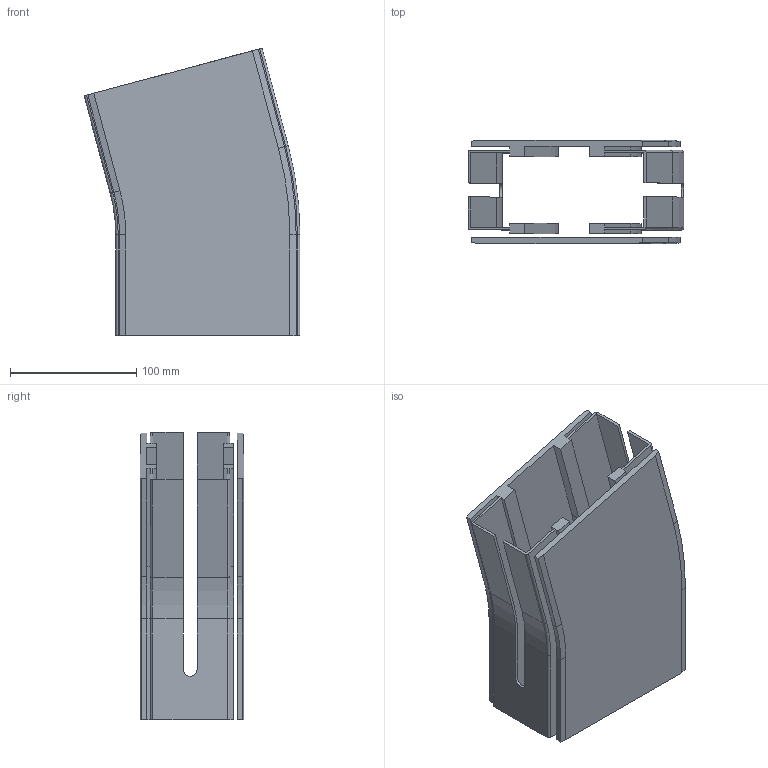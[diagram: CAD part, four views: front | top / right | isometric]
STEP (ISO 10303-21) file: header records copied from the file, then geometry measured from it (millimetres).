
FILE_DESCRIPTION((''),'2;1');
FILE_NAME('C:\Vault Klient\Projekt\Koncept konstruktion\Serie 540 Balk\540-5130.stp','2010-11-24T10:11:37',('Mathias'),(''),'Autodesk Inventor 2011','Autodesk Inventor 2011','');
FILE_SCHEMA(('AUTOMOTIVE_DESIGN { 1 0 10303 214 1 1 1 1 }'));
Length unit declared in the file: millimetre
Products named in the file (1): 540-5130
Bounding box: 171.03 x 82 x 227.93 mm (x, y, z)
Volume: 479455.8 mm3; surface area: 250290.4 mm2
Topology: 2 solids, 2 shells, 159 faces, 434 edges, 284 vertices
Faces by surface type: plane 103, cylinder 32, bspline 14, cone 6, torus 4
Entity records: 5158 total; most frequent: CARTESIAN_POINT 1072, ORIENTED_EDGE 868, DIRECTION 774, EDGE_CURVE 434, VECTOR 330, LINE 330, VERTEX_POINT 284, AXIS2_PLACEMENT_3D 222
